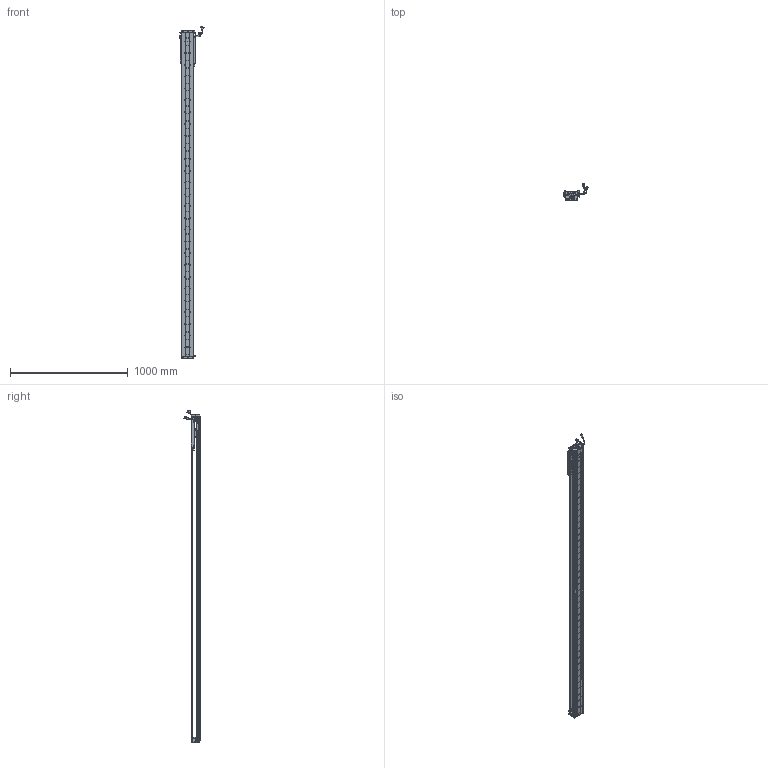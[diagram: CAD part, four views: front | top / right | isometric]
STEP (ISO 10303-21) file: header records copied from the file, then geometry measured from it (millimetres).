
FILE_DESCRIPTION (( 'STEP AP203' ), '1' );
FILE_NAME ('Z3-RY100D-1-L500-B-K.SLDASM_2450.step', '2021-05-17T02:52:23', ( '盈信电脑' ), ( '东莞市道滘镇水果街19号' ), 'SwSTEP 2.0', 'SolidWorks 2016', '' );
FILE_SCHEMA (( 'CONFIG_CONTROL_DESIGN' ));
Length unit declared in the file: millimetre
Products named in the file (36): PSLH080_PSLF2; HARNESS-Part-1; COVER-Part-1; SCALE-Part-1; 榋妏寠巭燃_暯_M2_2; HARNESS; Z-RY100D詩湍奻揤裔; LABEL-Part-1; 100-Z-臏賑輸盄裔(21遴); SCREW-M1.6-1; SCREW-M1.6-3; SCALE; PBU_SHEET; Z-RY100D覜茼んえ; 覜茼ん672; SCREW-M1.7-1; SCREW-M1.6; 140雄赽晤鎢ん堤盄; 140蚥薯蝶輸; Z-100詩湍傷裔啣; SHIELDPLATE; HOLDER0; SCREW-M1.7; HARNESS-Part-2; Z3-RY100铝滑块（21款）; Z3-RY100D-1-L500-B-K.SLDASM_2450; Z3-RY100-L500詩湍90mm遵_2450; COVER; SCALE-Part-2; Z3-RY100D-500-倰第菁釱_2450; 080黍杅芛假蚾釱21遴; SEAL-Part-1; SCREW-M1.6-2; LABEL; SEAL; Z-RY100D詩湍狟揤裔
Assembly tree (43 placements, depth 4):
  Z3-RY100D-1-L500-B-K.SLDASM_2450
    Z3-RY100D-500-倰第菁釱_2450
    Z3-RY100铝滑块（21款）
    PSLH080_PSLF2
      SCALE
        SCALE-Part-1
        SCALE-Part-2
      HARNESS
        HARNESS-Part-1
        HARNESS-Part-2
      LABEL
        LABEL-Part-1
      COVER
        COVER-Part-1
      SEAL
        SEAL-Part-1
      榋妏寠巭燃_暯_M2_2
      SHIELDPLATE
      SCREW-M1.7
      SCREW-M1.7-1
      PBU_SHEET
      SCREW-M1.6
      SCREW-M1.6-1
      SCREW-M1.6-2
      SCREW-M1.6-3
      HOLDER0
    080黍杅芛假蚾釱21遴
    Z-100詩湍傷裔啣  x2
    140蚥薯蝶輸  x2
    覜茼ん672  x3
    Z-RY100D覜茼んえ  x3
    100-Z-臏賑輸盄裔(21遴)
    140雄赽晤鎢ん堤盄
    Z3-RY100-L500詩湍90mm遵_2450
    Z-RY100D詩湍狟揤裔  x2
    Z-RY100D詩湍奻揤裔  x2
Bounding box: 205.79 x 136.11 x 2820.43 mm (x, y, z)
Volume: 5136965.5 mm3; surface area: 2024655.3 mm2
Topology: 38 solids, 38 shells, 3037 faces, 8305 edges, 5304 vertices
Faces by surface type: cylinder 1502, plane 1187, cone 226, torus 69, bspline 53
Entity records: 88219 total; most frequent: CARTESIAN_POINT 18461, DIRECTION 14243, ORIENTED_EDGE 13490, EDGE_CURVE 6745, AXIS2_PLACEMENT_3D 5362, VERTEX_POINT 4372, LINE 3519, VECTOR 3519
